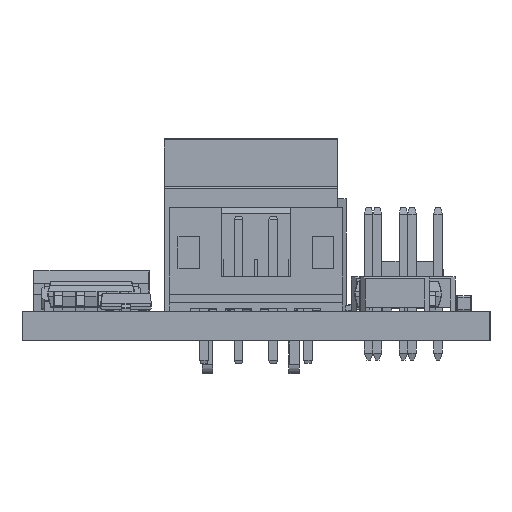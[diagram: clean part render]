
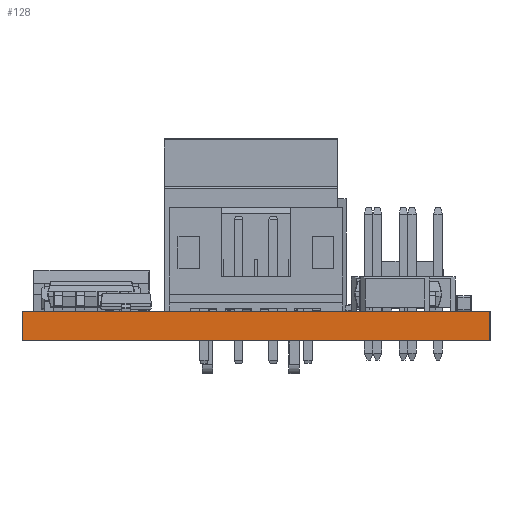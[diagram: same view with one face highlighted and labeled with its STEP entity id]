
A CAD part, left-side view. The second image highlights one B-rep face of the part: STEP entity #128.
In plain terms, the highlighted planar face has unit normal (-1, 0, 0).
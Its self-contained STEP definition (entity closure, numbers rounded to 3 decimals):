
#128 = ADVANCED_FACE('',(#129),#163,.T.);
#129 = FACE_BOUND('',#130,.T.);
#130 = EDGE_LOOP('',(#131,#141,#149,#157));
#131 = ORIENTED_EDGE('',*,*,#132,.T.);
#132 = EDGE_CURVE('',#133,#135,#137,.T.);
#133 = VERTEX_POINT('',#134);
#134 = CARTESIAN_POINT('',(0.,0.,0.));
#135 = VERTEX_POINT('',#136);
#136 = CARTESIAN_POINT('',(0.,0.,1.691));
#137 = LINE('',#138,#139);
#138 = CARTESIAN_POINT('',(0.,0.,0.));
#139 = VECTOR('',#140,1.);
#140 = DIRECTION('',(0.,0.,1.));
#141 = ORIENTED_EDGE('',*,*,#142,.T.);
#142 = EDGE_CURVE('',#135,#143,#145,.T.);
#143 = VERTEX_POINT('',#144);
#144 = CARTESIAN_POINT('',(0.,27.,1.691));
#145 = LINE('',#146,#147);
#146 = CARTESIAN_POINT('',(0.,0.,1.691));
#147 = VECTOR('',#148,1.);
#148 = DIRECTION('',(0.,1.,0.));
#149 = ORIENTED_EDGE('',*,*,#150,.F.);
#150 = EDGE_CURVE('',#151,#143,#153,.T.);
#151 = VERTEX_POINT('',#152);
#152 = CARTESIAN_POINT('',(0.,27.,0.));
#153 = LINE('',#154,#155);
#154 = CARTESIAN_POINT('',(0.,27.,0.));
#155 = VECTOR('',#156,1.);
#156 = DIRECTION('',(0.,0.,1.));
#157 = ORIENTED_EDGE('',*,*,#158,.F.);
#158 = EDGE_CURVE('',#133,#151,#159,.T.);
#159 = LINE('',#160,#161);
#160 = CARTESIAN_POINT('',(0.,0.,0.));
#161 = VECTOR('',#162,1.);
#162 = DIRECTION('',(0.,1.,0.));
#163 = PLANE('',#164);
#164 = AXIS2_PLACEMENT_3D('',#165,#166,#167);
#165 = CARTESIAN_POINT('',(0.,0.,0.));
#166 = DIRECTION('',(-1.,0.,0.));
#167 = DIRECTION('',(0.,1.,0.));
